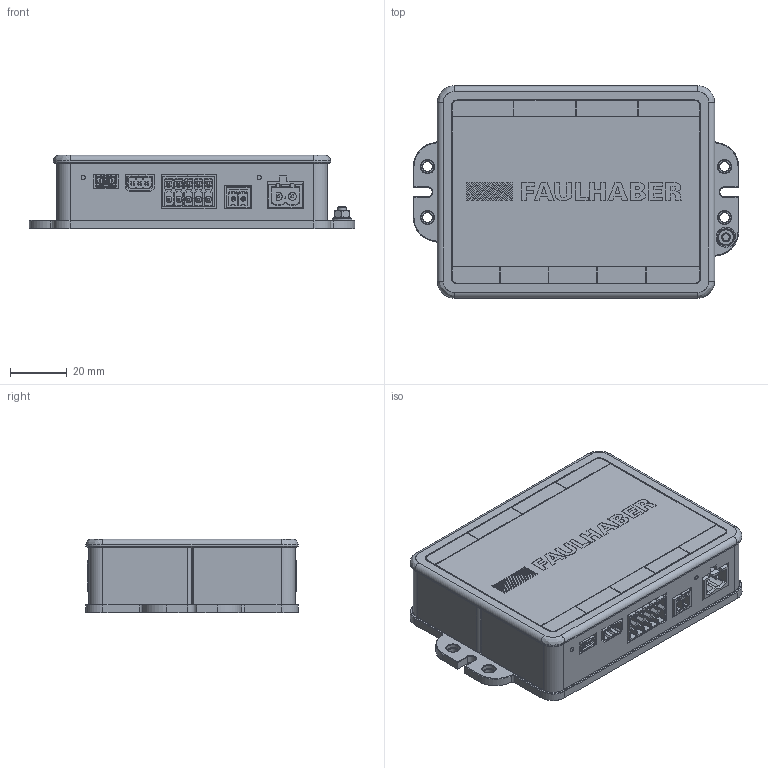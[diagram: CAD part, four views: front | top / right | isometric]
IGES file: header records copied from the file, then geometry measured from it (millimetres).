
Global section: file name: D:\Daten-Huge\PLM_Export\A_Internet_Modelle\Sonstiges\Controller_Platinen\CONTROLLER MC50xx S RS_CO.igs; native system: NX V8.5; preprocessor: SIEMENS PLM Software NX 8.5; author: DR. FRITZ FAULHABER GmbH & Co. KG; organization: DR. FRITZ FAULHABER GmbH & Co. KG; date: 20160302.101407; units: millimetre
Bounding box: 115 x 75 x 26 mm (x, y, z)
Surface area: 37147.4 mm2 (no closed solid volume)
Topology: 0 solids, 0 shells, 3286 faces, 18756 edges, 18686 vertices
Faces by surface type: bspline 3286
